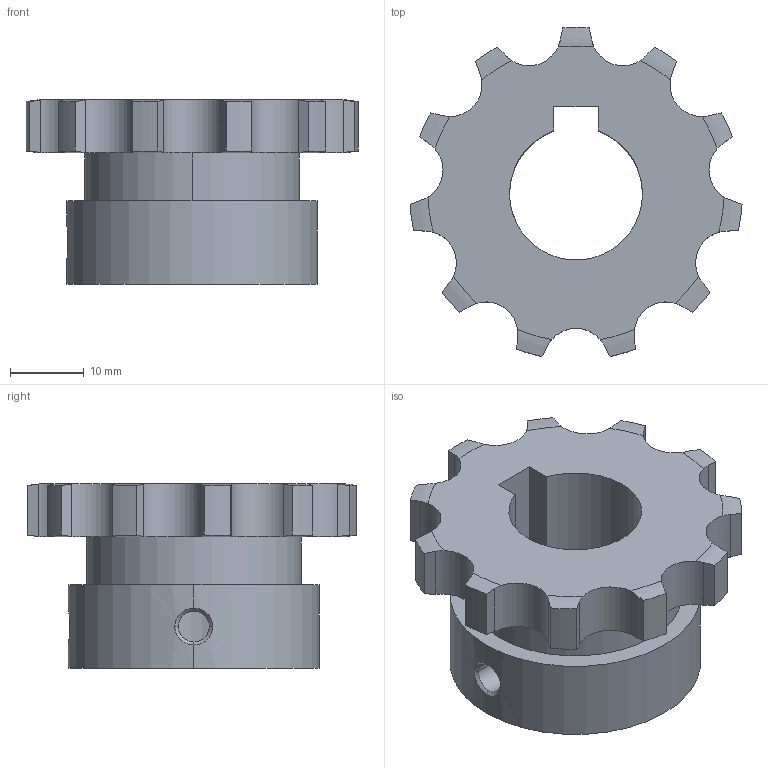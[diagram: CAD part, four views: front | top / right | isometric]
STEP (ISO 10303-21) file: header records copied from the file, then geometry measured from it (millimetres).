
FILE_DESCRIPTION((''),'2;1');
FILE_NAME('510-201-1811_PRT','2021-02-13T',('Brieden'),('Brieden'),'PRO/ENGINEER BY PARAMETRIC TECHNOLOGY CORPORATION, 2010160','PRO/ENGINEER BY PARAMETRIC TECHNOLOGY CORPORATION, 2010160','');
FILE_SCHEMA(('AUTOMOTIVE_DESIGN { 1 0 10303 214 1 1 1 1 }'));
Length unit declared in the file: millimetre
Products named in the file (1): 510-201-1811_PRT
Bounding box: 44.98 x 44.58 x 25 mm (x, y, z)
Volume: 16824.2 mm3; surface area: 7272 mm2
Topology: 1 solids, 1 shells, 88 faces, 249 edges, 164 vertices
Faces by surface type: cylinder 53, torus 22, plane 7, bspline 6
Entity records: 4348 total; most frequent: CARTESIAN_POINT 1382, ORIENTED_EDGE 498, DIRECTION 389, PRESENTATION_STYLE_ASSIGNMENT 250, STYLED_ITEM 250, CURVE_STYLE 249, EDGE_CURVE 249, VERTEX_POINT 164
